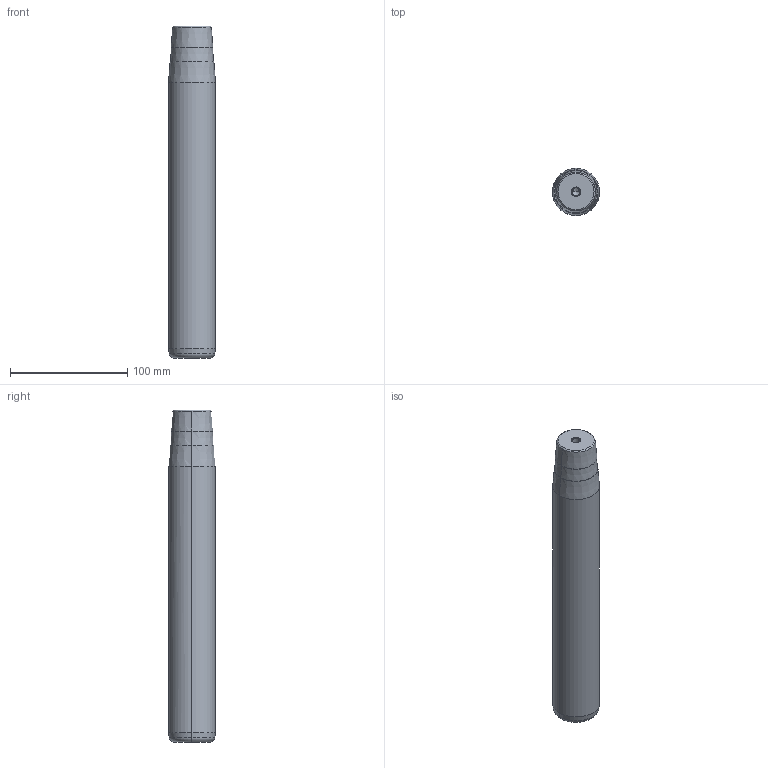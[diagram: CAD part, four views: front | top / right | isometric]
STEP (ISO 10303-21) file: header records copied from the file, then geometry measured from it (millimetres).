
FILE_DESCRIPTION(('CATIA V5 STEP Exchange'),'2;1');
FILE_NAME('C:\Users\Utente\Desktop\IO LAVORO\3D X SITO CF\X SITO\722\722-40x250x283.stp','2021-01-08T15:33:11+00:00',('none'),('none'),'CATIA Version 5 Release 20 GA (IN-10)','CATIA V5 STEP AP203','none');
FILE_SCHEMA(('CONFIG_CONTROL_DESIGN'));
Length unit declared in the file: millimetre
Products named in the file (1): 722-40x250x283
Bounding box: 40 x 40 x 283 mm (x, y, z)
Volume: 342267.7 mm3; surface area: 37899.7 mm2
Topology: 1 solids, 1 shells, 32 faces, 66 edges, 34 vertices
Faces by surface type: cone 22, cylinder 6, plane 2, torus 2
Entity records: 866 total; most frequent: CARTESIAN_POINT 189, ORIENTED_EDGE 124, DIRECTION 123, AXIS2_PLACEMENT_3D 64, EDGE_CURVE 62, EDGE_LOOP 34, VERTEX_POINT 34, ADVANCED_FACE 32
